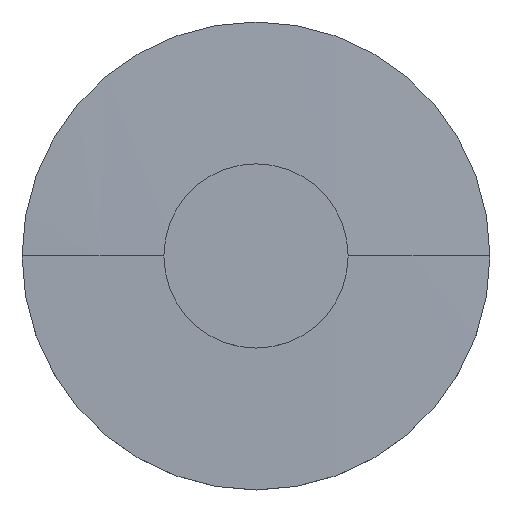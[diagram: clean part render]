
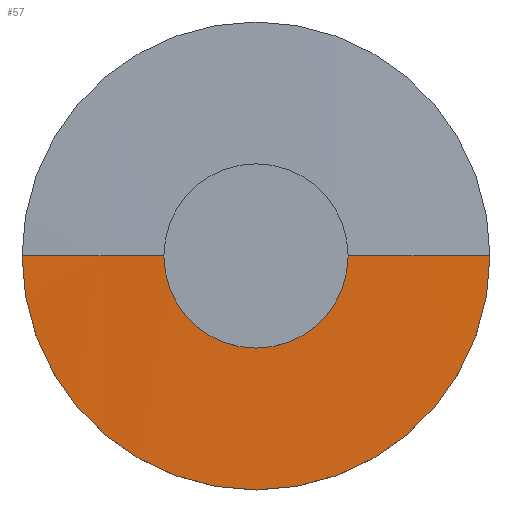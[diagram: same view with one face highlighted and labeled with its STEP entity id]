
A CAD part, top view. The second image highlights one B-rep face of the part: STEP entity #57.
In plain terms, the highlighted spherical face has radius 759.878 mm.
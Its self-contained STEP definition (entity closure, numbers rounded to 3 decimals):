
#57=ADVANCED_FACE('',(#71),#72,.T.);
#71=FACE_OUTER_BOUND('',#91,.T.);
#72=SPHERICAL_SURFACE('',#92,759.878);
#91=EDGE_LOOP('',(#124,#125,#126));
#92=AXIS2_PLACEMENT_3D('',#127,#128,#129);
#124=ORIENTED_EDGE('',*,*,#173,.T.);
#125=ORIENTED_EDGE('',*,*,#174,.T.);
#126=ORIENTED_EDGE('',*,*,#175,.T.);
#127=CARTESIAN_POINT('',(0.0,0.0,-752.378));
#128=DIRECTION('',(0.0,0.0,1.0));
#129=DIRECTION('',(1.0,0.0,0.0));
#173=EDGE_CURVE('',#189,#194,#195,.T.);
#174=EDGE_CURVE('',#194,#191,#196,.T.);
#175=EDGE_CURVE('',#191,#189,#197,.T.);
#189=VERTEX_POINT('',#215);
#191=VERTEX_POINT('',#218);
#194=VERTEX_POINT('',#222);
#195=CIRCLE('',#223,759.878);
#196=CIRCLE('',#224,759.878);
#197=CIRCLE('',#225,25.4);
#215=CARTESIAN_POINT('',(25.4,0.,7.075));
#218=CARTESIAN_POINT('',(-25.4,0.,7.075));
#222=CARTESIAN_POINT('',(0.0,0.0,7.5));
#223=AXIS2_PLACEMENT_3D('',#253,#254,#255);
#224=AXIS2_PLACEMENT_3D('',#256,#257,#258);
#225=AXIS2_PLACEMENT_3D('',#259,#260,#261);
#253=CARTESIAN_POINT('',(0.0,0.0,-752.378));
#254=DIRECTION('',(0.,-1.0,0.0));
#255=DIRECTION('',(0.0,0.0,1.0));
#256=CARTESIAN_POINT('',(0.0,0.0,-752.378));
#257=DIRECTION('',(0.,-1.0,0.0));
#258=DIRECTION('',(0.0,0.0,1.0));
#259=CARTESIAN_POINT('',(0.0,0.0,7.075));
#260=DIRECTION('',(0.0,0.0,1.0));
#261=DIRECTION('',(1.0,0.0,0.0));
